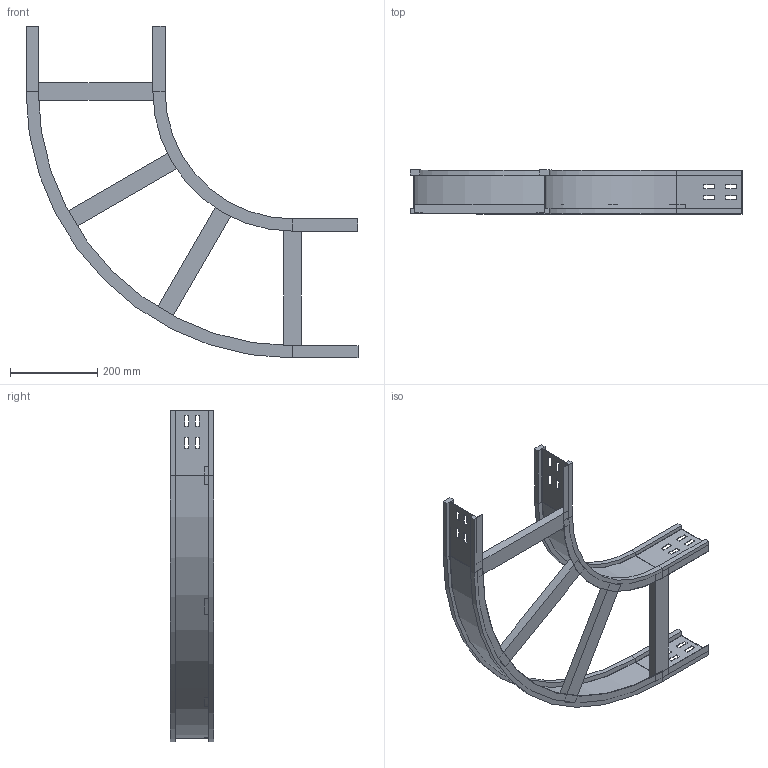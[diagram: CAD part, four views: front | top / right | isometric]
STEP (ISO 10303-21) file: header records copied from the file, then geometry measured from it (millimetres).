
FILE_DESCRIPTION (( 'STEP AP214' ), '1' );
FILE_NAME ('10S3D300.step', '2025-02-21T16:08:53', ( '' ), ( '' ), 'SwSTEP 2.0', 'SolidWorks 2023', '' );
FILE_SCHEMA (( 'AUTOMOTIVE_DESIGN' ));
Length unit declared in the file: millimetre
Products named in the file (4): LONGH.INTERNO 90°_H100_R300; TRAVERSINO_300; 10S3D300; LONGH.ESTERNO 90°_H100_R300+300
Assembly tree (6 placements, depth 2):
  10S3D300
    LONGH.INTERNO 90°_H100_R300
    LONGH.ESTERNO 90°_H100_R300+300
    TRAVERSINO_300  x4
Bounding box: 759 x 100 x 759 mm (x, y, z)
Volume: 2024653.3 mm3; surface area: 744854.9 mm2
Topology: 6 solids, 6 shells, 164 faces, 408 edges, 256 vertices
Faces by surface type: plane 152, cylinder 12
Entity records: 4485 total; most frequent: CARTESIAN_POINT 759, ORIENTED_EDGE 744, DIRECTION 706, EDGE_CURVE 372, VECTOR 348, LINE 348, VERTEX_POINT 232, AXIS2_PLACEMENT_3D 179
